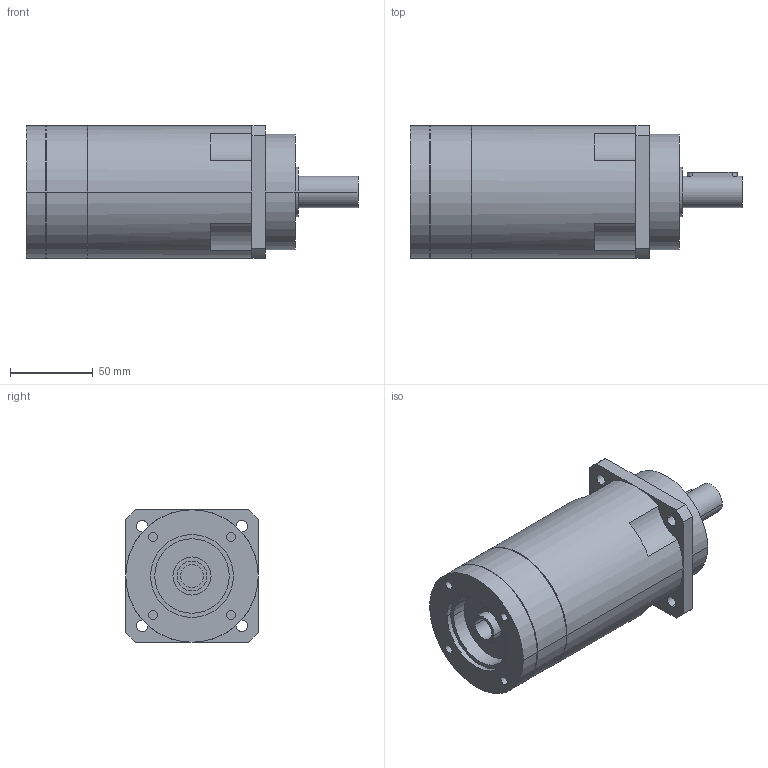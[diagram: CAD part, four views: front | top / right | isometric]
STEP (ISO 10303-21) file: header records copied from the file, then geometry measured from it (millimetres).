
FILE_DESCRIPTION(('CoCreate Modeling STEP Export'),'2;1');
FILE_NAME('GPR100_ig-48-64-80-100-120-144-180-216_19_B5_14_P29.stp','2014-08-26T11:54:50',(''),(''),'CoCreate Modeling STEP processor for AP214 (Solid Model)','CoCreate Modeling 16.00C 25-Feb-2009 (C) Parametric Technology GmbH','');
FILE_SCHEMA(('AUTOMOTIVE_DESIGN { 1 0 10303 214 1 1 1 1 }'));
Length unit declared in the file: millimetre
Products named in the file (2): GPR100_ig-48-64-80-100-120-144-180-216_19_B5_14_P29
Assembly tree (1 placements, depth 2):
  GPR100_ig-48-64-80-100-120-144-180-216_19_B5_14_P29
    GPR100_ig-48-64-80-100-120-144-180-216_19_B5_14_P29
Bounding box: 200.4 x 80 x 80 mm (x, y, z)
Volume: 783516.8 mm3; surface area: 61612.9 mm2
Topology: 1 solids, 1 shells, 87 faces, 222 edges, 150 vertices
Faces by surface type: cylinder 50, plane 31, cone 6
Entity records: 2364 total; most frequent: ORIENTED_EDGE 440, CARTESIAN_POINT 428, DIRECTION 346, EDGE_CURVE 220, VERTEX_POINT 150, AXIS2_PLACEMENT_3D 132, EDGE_LOOP 110, FACE_OUTER_BOUND 87
